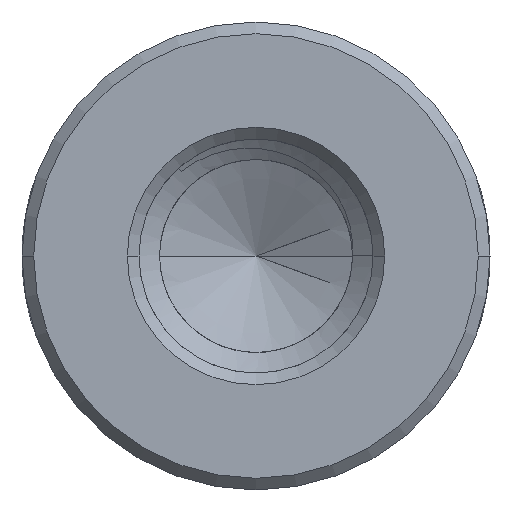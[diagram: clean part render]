
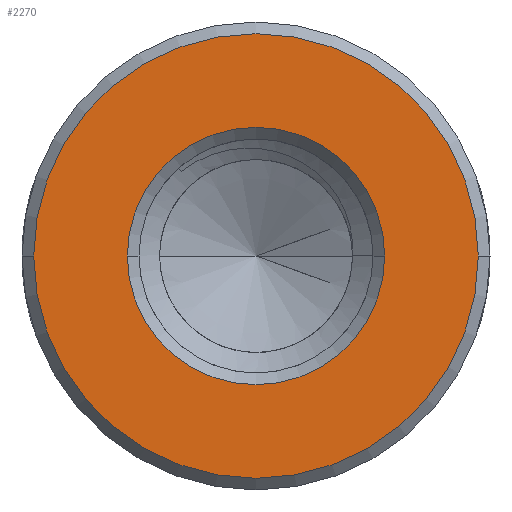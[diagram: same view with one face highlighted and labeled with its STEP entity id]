
A CAD part, front view. The second image highlights one B-rep face of the part: STEP entity #2270.
In plain terms, the highlighted planar face has unit normal (0, -1, 0).
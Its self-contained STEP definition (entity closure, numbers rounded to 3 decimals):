
#1=CARTESIAN_POINT('',(0.,-25.,0.));
#2=DIRECTION('',(0.,-1.,0.));
#3=DIRECTION('',(-1.,0.,0.));
#4=AXIS2_PLACEMENT_3D('',#1,#2,#3);
#6=CARTESIAN_POINT('',(0.,-25.,0.));
#7=DIRECTION('',(0.,-1.,0.));
#8=DIRECTION('',(1.,0.,0.));
#9=AXIS2_PLACEMENT_3D('',#6,#7,#8);
#11=CARTESIAN_POINT('',(0.,-25.,0.));
#12=DIRECTION('',(0.,1.,0.));
#13=DIRECTION('',(-1.,0.,0.));
#14=AXIS2_PLACEMENT_3D('',#11,#12,#13);
#16=CARTESIAN_POINT('',(0.,-25.,0.));
#17=DIRECTION('',(0.,1.,0.));
#18=DIRECTION('',(1.,0.,0.));
#19=AXIS2_PLACEMENT_3D('',#16,#17,#18);
#2114=CARTESIAN_POINT('',(-5.7,-25.,0.));
#2115=CARTESIAN_POINT('',(5.7,-25.,0.));
#2116=VERTEX_POINT('',#2114);
#2117=VERTEX_POINT('',#2115);
#2206=CARTESIAN_POINT('',(-3.3,-25.,0.));
#2207=CARTESIAN_POINT('',(3.3,-25.,0.));
#2208=VERTEX_POINT('',#2206);
#2209=VERTEX_POINT('',#2207);
#2253=CARTESIAN_POINT('',(0.,-25.,0.));
#2254=DIRECTION('',(0.,1.,0.));
#2255=DIRECTION('',(1.,0.,0.));
#2256=AXIS2_PLACEMENT_3D('',#2253,#2254,#2255);
#2257=PLANE('',#2256);
#2259=ORIENTED_EDGE('',*,*,#2258,.F.);
#2261=ORIENTED_EDGE('',*,*,#2260,.F.);
#2262=EDGE_LOOP('',(#2259,#2261));
#2263=FACE_OUTER_BOUND('',#2262,.F.);
#2265=ORIENTED_EDGE('',*,*,#2264,.F.);
#2267=ORIENTED_EDGE('',*,*,#2266,.F.);
#2268=EDGE_LOOP('',(#2265,#2267));
#2269=FACE_BOUND('',#2268,.F.);
#2270=ADVANCED_FACE('',(#2263,#2269),#2257,.F.);
#5=CIRCLE('',#4,5.7);
#10=CIRCLE('',#9,5.7);
#15=CIRCLE('',#14,3.3);
#20=CIRCLE('',#19,3.3);
#2258=EDGE_CURVE('',#2116,#2117,#5,.T.);
#2260=EDGE_CURVE('',#2117,#2116,#10,.T.);
#2264=EDGE_CURVE('',#2208,#2209,#15,.T.);
#2266=EDGE_CURVE('',#2209,#2208,#20,.T.);
